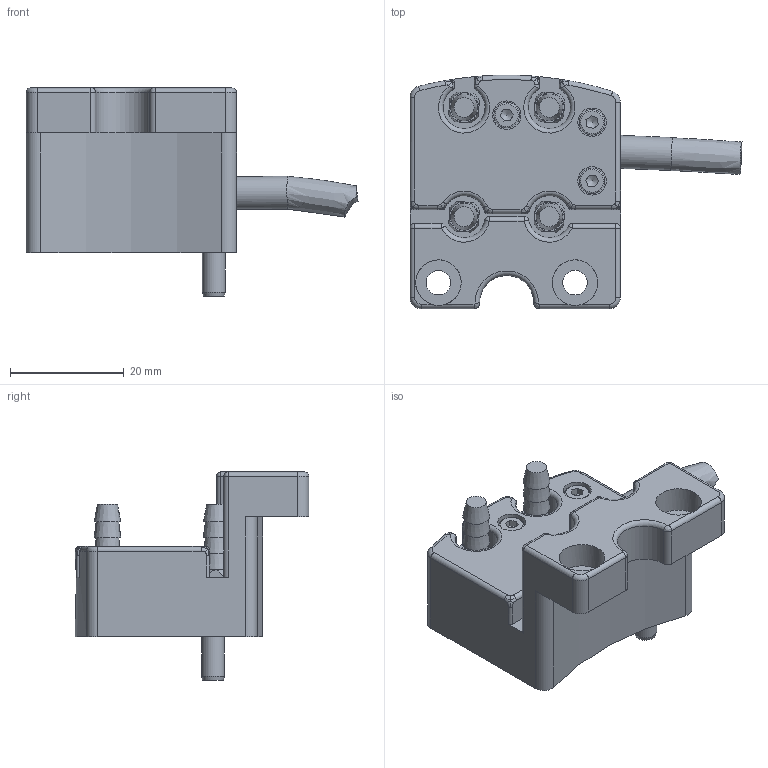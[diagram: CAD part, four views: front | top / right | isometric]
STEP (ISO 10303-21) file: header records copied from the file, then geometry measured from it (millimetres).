
FILE_DESCRIPTION(/* description */ (''),/* implementation_level */ '2;1');
FILE_NAME(/* name */ 'T:\CAD\Standard\MEK\MEK-R\MEK100-R\4. 3D-CAD\4. 3D-CAD - MEK100-O-4PR4-1FE12 Zsm.stp',/* time_stamp */ '2018-05-30T07:38:16+02:00',/* author */ ('vbednarz'),/* organization */ (''),/* preprocessor_version */ 'ST-DEVELOPER v16.13',/* originating_system */ 'Autodesk Inventor 2018',/* authorisation */ '');
FILE_SCHEMA (('AUTOMOTIVE_DESIGN { 1 0 10303 214 3 1 1 }'));
Length unit declared in the file: millimetre
Products named in the file (2): MEK100-O-4PR4-1FE12 Zsm copy; 4. 3D-CAD - MEK100-O-4PR4-1FE12 Zsm 
Assembly tree (1 placements, depth 2):
  MEK100-O-4PR4-1FE12 Zsm copy
    4. 3D-CAD - MEK100-O-4PR4-1FE12 Zsm 
Bounding box: 58.36 x 41.08 x 36.58 mm (x, y, z)
Volume: 21655.1 mm3; surface area: 8776.7 mm2
Topology: 1 solids, 1 shells, 350 faces, 836 edges, 529 vertices
Faces by surface type: plane 125, cylinder 101, bspline 65, cone 36, torus 17, sphere 6
Full cylindrical faces by diameter (mm): 1.83 x12, 4 x1, 4.3 x2, 4.5 x3, 5 x3, 5.8 x1, 8 x2
Entity records: 15671 total; most frequent: CARTESIAN_POINT 7635, ORIENTED_EDGE 1562, DIRECTION 1513, EDGE_CURVE 781, AXIS2_PLACEMENT_3D 624, VERTEX_POINT 521, EDGE_LOOP 444, STYLED_ITEM 351
